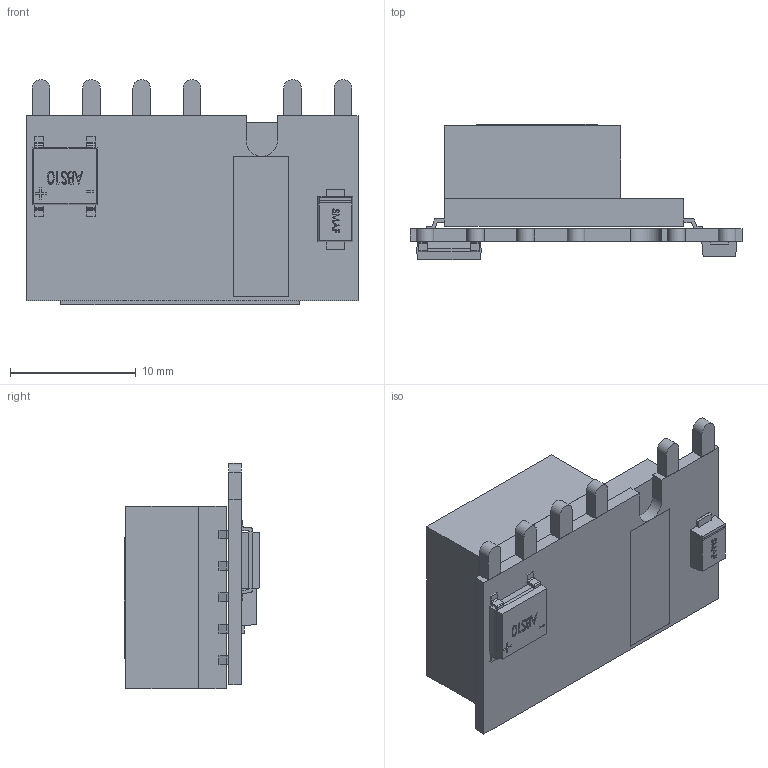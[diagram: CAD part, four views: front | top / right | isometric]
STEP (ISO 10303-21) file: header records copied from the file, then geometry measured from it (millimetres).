
FILE_DESCRIPTION (( 'STEP AP203' ), '1' );
FILE_NAME ('PSO05-X-C.STEP', '2026-01-23T08:14:54', ( '' ), ( '' ), 'SwSTEP 2.0', 'SolidWorks 2012', '' );
FILE_SCHEMA (( 'CONFIG_CONTROL_DESIGN' ));
Length unit declared in the file: millimetre
Products named in the file (5): PSO05-X-C; S80-43005-001; ABS10; S40-SMAF; 100-63005-00100_PSO05-C
Assembly tree (4 placements, depth 2):
  PSO05-X-C
    100-63005-00100_PSO05-C
    S80-43005-001
    ABS10
    S40-SMAF
Bounding box: 26.4 x 10.75 x 17.89 mm (x, y, z)
Volume: 2246.6 mm3; surface area: 2834.7 mm2
Topology: 20 solids, 20 shells, 411 faces, 1026 edges, 676 vertices
Faces by surface type: plane 340, bspline 48, cylinder 23
Entity records: 14945 total; most frequent: CARTESIAN_POINT 4912, ORIENTED_EDGE 2052, DIRECTION 1716, EDGE_CURVE 1026, LINE 884, VECTOR 884, VERTEX_POINT 676, EDGE_LOOP 434
